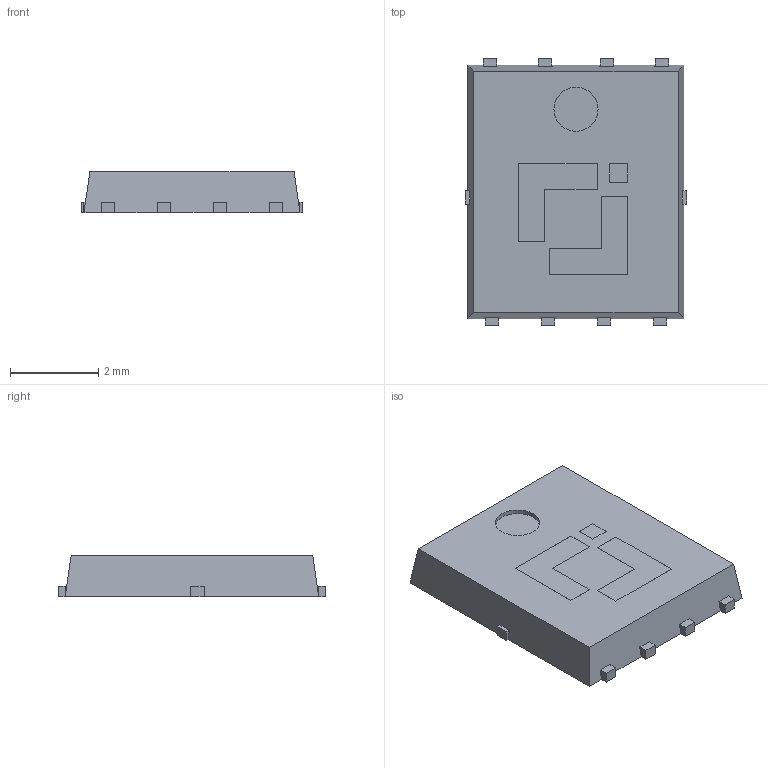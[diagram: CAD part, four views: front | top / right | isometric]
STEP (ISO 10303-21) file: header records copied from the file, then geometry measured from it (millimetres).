
FILE_DESCRIPTION(('HOOPS Exchange Step'),'2;1');
FILE_NAME('C:\Users\xuyu\AppData\Local\Packages\Shapr3D.Shapr3D_j403pzjkqtqbj\TempState\export\temp_export','2025-12-05T15:54:58+08:00',('xuyu'),('Shapr3D Limited'),'HOOPS Exchange 2025.7','Shapr3D','Authorized');
FILE_SCHEMA( ('AP242_MANAGED_MODEL_BASED_3D_ENGINEERING_MIM_LF {1 0 10303 442 1 1 4}') );
Length unit declared in the file: millimetre
Products named in the file (1): root
Bounding box: 5.02 x 6.05 x 0.95 mm (x, y, z)
Volume: 25.5 mm3; surface area: 119.7 mm2
Topology: 6 solids, 6 shells, 241 faces, 675 edges, 450 vertices
Faces by surface type: plane 232, cylinder 9
Full cylindrical faces by diameter (mm): 1 x1
Entity records: 7666 total; most frequent: CARTESIAN_POINT 1368, ORIENTED_EDGE 1350, DIRECTION 1183, EDGE_CURVE 675, VECTOR 653, LINE 653, VERTEX_POINT 450, AXIS2_PLACEMENT_3D 265
